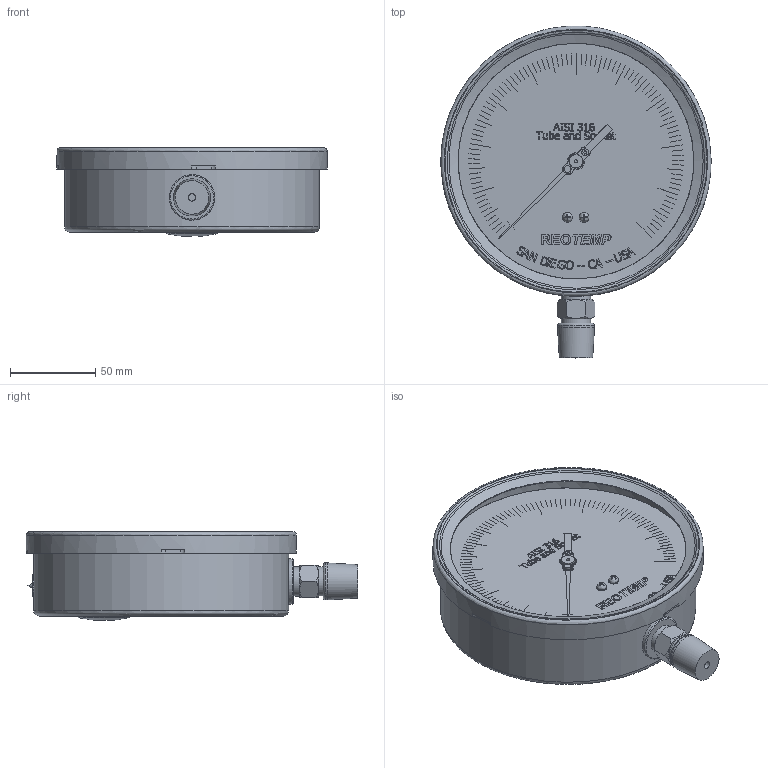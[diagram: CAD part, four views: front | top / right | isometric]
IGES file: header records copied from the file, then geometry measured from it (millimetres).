
Global section: file name: PR60-half-NPT-Bottom-Connect-IGS; native system: Autodesk Inventor 2014; preprocessor: unknown; author: Charles; date: 20151106.162504; units: inch
Bounding box: 158.75 x 194.93 x 52.07 mm (x, y, z)
Volume: 694618.2 mm3; surface area: 78385.9 mm2
Topology: 3 solids, 17 shells, 1334 faces, 3449 edges, 2296 vertices
Faces by surface type: bspline 1334
